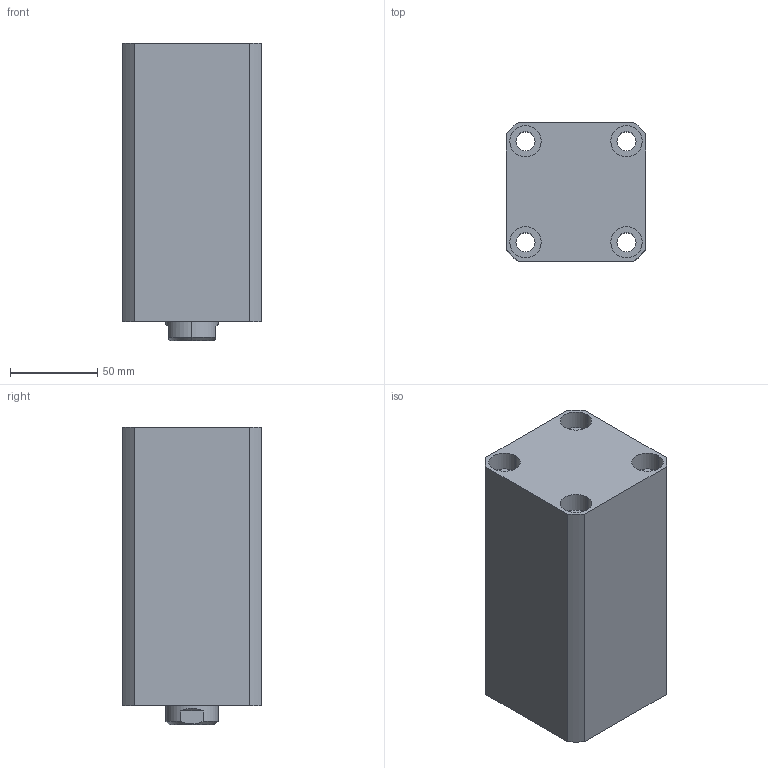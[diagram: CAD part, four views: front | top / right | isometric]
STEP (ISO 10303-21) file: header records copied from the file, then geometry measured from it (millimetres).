
FILE_DESCRIPTION (( 'STEP AP203' ), '1' );
FILE_NAME ('CHTB-SDMA50-100N.STEP', '2018-05-19T03:08:54', ( '' ), ( '' ), 'SwSTEP 2.0', 'SolidWorks 2015', '' );
FILE_SCHEMA (( 'CONFIG_CONTROL_DESIGN' ));
Length unit declared in the file: millimetre
Products named in the file (5): M6; CHTB-SDMA50-100N; 掛极SDMA50-100N; CHTM-SDMA50QG; 活塞杆SDMA50-100N
Assembly tree (5 placements, depth 2):
  CHTB-SDMA50-100N
    掛极SDMA50-100N
    活塞杆SDMA50-100N
    CHTM-SDMA50QG
    M6  x2
Bounding box: 80 x 80 x 171 mm (x, y, z)
Volume: 802931 mm3; surface area: 148875.6 mm2
Topology: 5 solids, 5 shells, 270 faces, 703 edges, 464 vertices
Faces by surface type: cylinder 139, plane 58, cone 31, bspline 26, torus 16
Entity records: 14133 total; most frequent: CARTESIAN_POINT 8131, ORIENTED_EDGE 1208, DIRECTION 1054, EDGE_CURVE 604, AXIS2_PLACEMENT_3D 433, VERTEX_POINT 403, EDGE_LOOP 277, FACE_OUTER_BOUND 235
